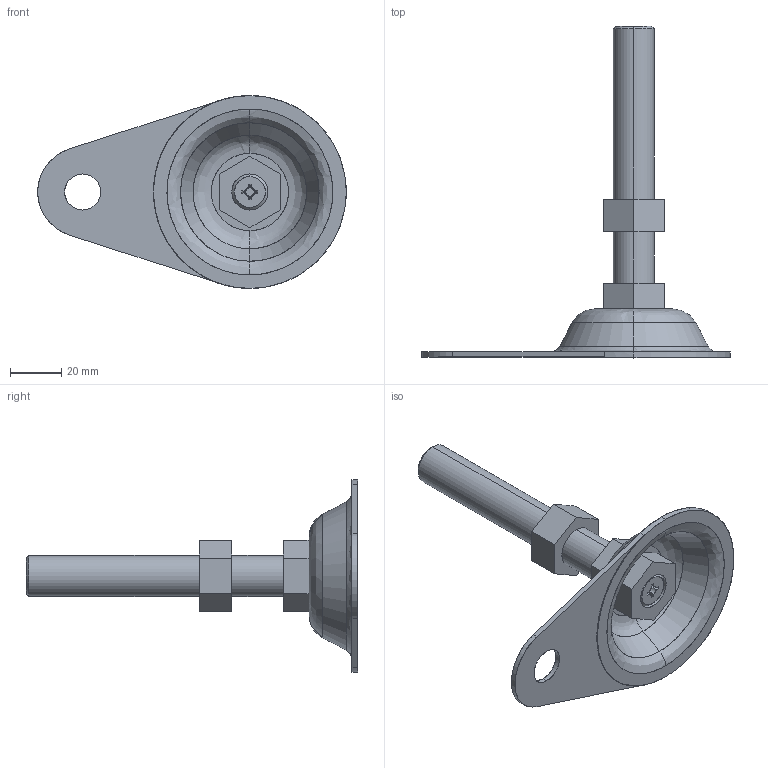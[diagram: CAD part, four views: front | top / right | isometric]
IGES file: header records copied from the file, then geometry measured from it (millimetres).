
Start section: SolidWorks IGES file using analytic representation for surfaces
Bounding box: 120 x 129 x 75 mm (x, y, z)
Surface area: 23821.9 mm2 (no closed solid volume)
Topology: 0 solids, 0 shells, 75 faces, 1028 edges, 1028 vertices
Faces by surface type: bspline 52, revolution 23
